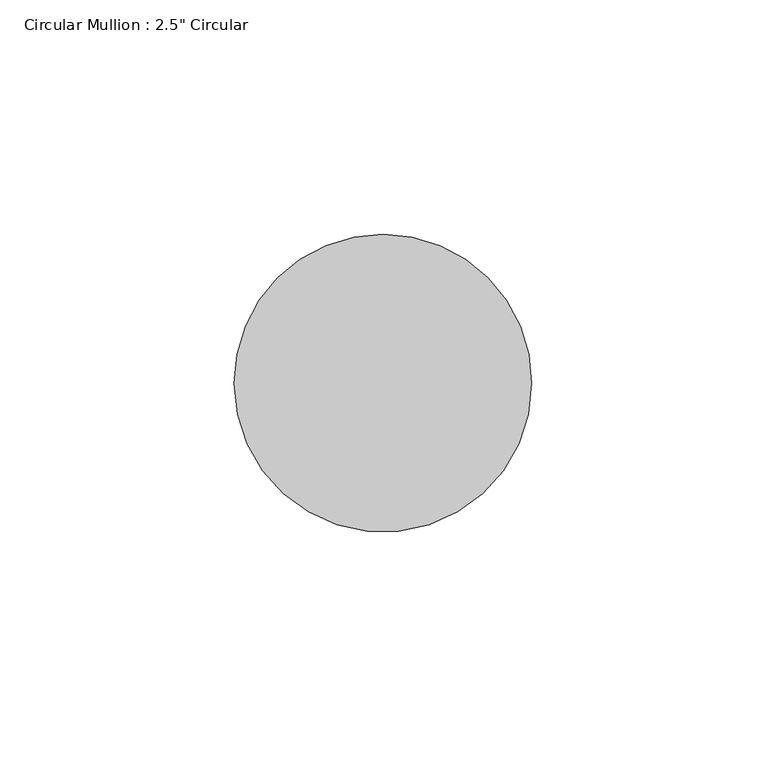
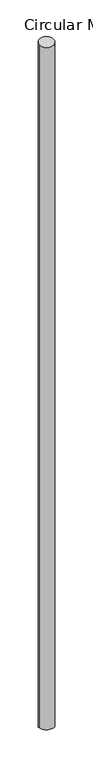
"""IFC4 building model written with IfcOpenShell, lengths in millimetres: member geometry."""

import ifcopenshell
import ifcopenshell.guid

model = None  # the IFC model being written
_history = None  # IfcOwnerHistory: only IFC2X3 demands one
_inside = {}  # id of a spatial element -> (the spatial element, [elements in it])
_under = {}  # id of a project, library or spatial element -> (it, [spatial elements below it])
_declared = {}  # id of a project -> (the project, [libraries it declares])
_typed = {}  # id of a type object -> (the type object, [elements of that type])
_made_of = {}  # id of a material, layer set ... -> (it, [elements and type objects made of it])


def new_model(schema):
    """Start an empty IFC model of exactly this schema.

    Asked for "IFC4X3", IfcOpenShell would pick the latest addendum, in which some entities
    have other attributes; the version numbers below select the first issue.
    IFC2X3 requires an IfcOwnerHistory on every rooted entity: one is made here for all.
    """
    global model, _history
    if schema == "IFC4X3":
        model = ifcopenshell.file(schema_version=(4, 3, 0, 0))
    else:
        model = ifcopenshell.file(schema=schema)
    _inside.clear()
    _under.clear()
    _declared.clear()
    _typed.clear()
    _made_of.clear()
    _history = None
    if model.schema == "IFC2X3":
        org = make("IfcOrganization", Name="unknown")
        user = make(
            "IfcPersonAndOrganization",
            ThePerson=make("IfcPerson", FamilyName="unknown"),
            TheOrganization=org,
        )
        app = make(
            "IfcApplication",
            ApplicationDeveloper=org,
            Version="unknown",
            ApplicationFullName="unknown",
            ApplicationIdentifier="unknown",
        )
        _history = make(
            "IfcOwnerHistory",
            OwningUser=user,
            OwningApplication=app,
            ChangeAction="ADDED",
            CreationDate=0,
        )
    return model


def make(cls, **values):
    """One entity of the class cls with the attributes given. An attribute that is None is left unset."""
    return model.create_entity(
        cls, **{name: value for name, value in values.items() if value is not None}
    )


def rooted(cls, **values):
    """An entity with a GlobalId (a new one), such as an element, a storey or a relation."""
    return make(cls, GlobalId=ifcopenshell.guid.new(), OwnerHistory=_history, **values)


def si_unit(unit_type, name, prefix=None):
    """IfcSIUnit, for example si_unit("LENGTHUNIT", "METRE", prefix="MILLI")."""
    return make("IfcSIUnit", UnitType=unit_type, Prefix=prefix, Name=name)


def assignment(units):
    """IfcUnitAssignment: the units of a project."""
    return None if units is None else make("IfcUnitAssignment", Units=units)


def point(xyz):
    """IfcCartesianPoint."""
    return None if xyz is None else make("IfcCartesianPoint", Coordinates=xyz)


def direction(xyz):
    """IfcDirection."""
    return None if xyz is None else make("IfcDirection", DirectionRatios=xyz)


def frame(location, z_axis=None, x_axis=None):
    """IfcAxis2Placement3D, a coordinate frame: its origin and axes. An axis left out is left unset."""
    return make(
        "IfcAxis2Placement3D",
        Location=point(location),
        Axis=direction(z_axis),
        RefDirection=direction(x_axis),
    )


def origin():
    """The frame at (0, 0, 0) with its axes left unset."""
    return frame((0.0, 0.0, 0.0))


def place(relative_to, where):
    """IfcLocalPlacement: puts the frame where relative to a parent placement (None: the world)."""
    return make(
        "IfcLocalPlacement", PlacementRelTo=relative_to, RelativePlacement=where
    )


def context(
    kind, dimensions, precision=None, world=None, true_north=None, identifier=None
):
    """IfcGeometricRepresentationContext, for example the 3D "Model" context."""
    return make(
        "IfcGeometricRepresentationContext",
        ContextIdentifier=identifier,
        ContextType=kind,
        CoordinateSpaceDimension=dimensions,
        Precision=precision,
        WorldCoordinateSystem=world,
        TrueNorth=true_north,
    )


def project(units=None, contexts=None):
    """IfcProject with its units and contexts."""
    return rooted(
        "IfcProject",
        Name="project",
        RepresentationContexts=contexts,
        UnitsInContext=assignment(units),
    )


def spatial(cls, under=None, at=None, **own):
    """A site, building, storey or space (cls), placed at a placement, below another one or the project."""
    s = rooted(cls, ObjectPlacement=at, **own)
    if under is not None:
        _under.setdefault(under.id(), (under, []))[1].append(s)
    return s


def ellipse_curve(where, semi_axis1, semi_axis2):
    """IfcEllipse in the frame where."""
    return make(
        "IfcEllipse", Position=where, SemiAxis1=semi_axis1, SemiAxis2=semi_axis2
    )


def shape(context_of_items, identifier, shape_type, items):
    """IfcShapeRepresentation: the items that make up one representation, for example the "Body"."""
    return make(
        "IfcShapeRepresentation",
        ContextOfItems=context_of_items,
        RepresentationIdentifier=identifier,
        RepresentationType=shape_type,
        Items=items,
    )


def source(mapping_origin, context_of_items, identifier, shape_type, items):
    """IfcRepresentationMap: a shape defined once, which mapped items show again and again."""
    return make(
        "IfcRepresentationMap",
        MappingOrigin=mapping_origin,
        MappedRepresentation=shape(context_of_items, identifier, shape_type, items),
    )


def transform(
    local_origin,
    x_axis=None,
    y_axis=None,
    z_axis=None,
    scale=None,
    scale2=None,
    scale3=None,
    uniform=True,
):
    """IfcCartesianTransformationOperator3D, or its non-uniform kind. x_axis, y_axis, z_axis: its Axis1, 2, 3."""
    if uniform:
        return make(
            "IfcCartesianTransformationOperator3D",
            Axis1=direction(x_axis),
            Axis2=direction(y_axis),
            LocalOrigin=point(local_origin),
            Scale=scale,
            Axis3=direction(z_axis),
        )
    return make(
        "IfcCartesianTransformationOperator3DnonUniform",
        Axis1=direction(x_axis),
        Axis2=direction(y_axis),
        LocalOrigin=point(local_origin),
        Scale=scale,
        Axis3=direction(z_axis),
        Scale2=scale2,
        Scale3=scale3,
    )


def mapped(mapping_source, mapping_target):
    """IfcMappedItem: shows the shape of a source again, moved by a transform."""
    return make(
        "IfcMappedItem", MappingSource=mapping_source, MappingTarget=mapping_target
    )


def made_of(thing, what):
    """Note that an element or type object is made of a material, layer set ...; save() writes the relation."""
    if what is not None:
        _made_of.setdefault(what.id(), (what, []))[1].append(thing)
    return thing


def element(
    cls,
    number,
    at=None,
    inside=None,
    cuts=None,
    type_object=None,
    material=None,
    context=None,
    identifier="Body",
    shape_type=None,
    held_by="IfcProductDefinitionShape",
    body=None,
    shapes=None,
    **own,
):
    """One element of the class cls, such as IfcWall. Its Tag is "e" and its number.

    at: its placement. inside: the storey or other place that contains it. cuts: it is an
    opening in that element (IfcRelVoidsElement). A single representation is given by context,
    identifier, shape_type and body (its items); several are given by shapes. held_by: the class
    of the entity that holds the representations. save() writes the other relations.
    """
    e = rooted(cls, Tag="e%d" % number, ObjectPlacement=at, **own)
    if body is not None:
        shapes = [shape(context, identifier, shape_type, body)]
    if shapes is not None:
        e.Representation = make(held_by, Representations=shapes)
    if inside is not None:
        _inside.setdefault(inside.id(), (inside, []))[1].append(e)
    if cuts is not None:
        rooted(
            "IfcRelVoidsElement", RelatingBuildingElement=cuts, RelatedOpeningElement=e
        )
    if type_object is not None:
        _typed.setdefault(type_object.id(), (type_object, []))[1].append(e)
    return made_of(e, material)


def aggregate(whole, parts):
    """IfcRelAggregates: a whole, such as a stair, and the parts it consists of."""
    return rooted("IfcRelAggregates", RelatingObject=whole, RelatedObjects=parts)


def save(model, path):
    """Write the relations noted so far, then the file.

    IfcRelAggregates (storeys below a building ...), IfcRelContainedInSpatialStructure (elements
    in a storey), IfcRelDefinesByType, IfcRelAssociatesMaterial and IfcRelDeclares: one each for
    every whole, place, type object, material and project.
    """
    for whole, parts in _under.values():
        aggregate(whole, parts)
    for where, things in _inside.values():
        rooted(
            "IfcRelContainedInSpatialStructure",
            RelatedElements=things,
            RelatingStructure=where,
        )
    for kind, things in _typed.values():
        rooted("IfcRelDefinesByType", RelatedObjects=things, RelatingType=kind)
    for what, things in _made_of.values():
        rooted("IfcRelAssociatesMaterial", RelatedObjects=things, RelatingMaterial=what)
    for by, libraries in _declared.values():
        rooted("IfcRelDeclares", RelatingContext=by, RelatedDefinitions=libraries)
    model.write(path)


def plane_surface(at):
    """IfcPlane: the flat surface through the origin of the frame at, square to its z axis."""
    return make("IfcPlane", Position=at)


def cylinder_surface(at, radius):
    """IfcCylindricalSurface: all points at the distance radius from the z axis of the frame at."""
    return make("IfcCylindricalSurface", Position=at, Radius=radius)


def advanced_brep(points, edges, surfaces, faces):
    """IfcAdvancedBrep: a solid bounded by faces that lie on surfaces and meet in shared edges.

    An edge is (start, end): straight between two places in points (the first is 0);
    or (start, end, curve); or (start, end, curve, False) where it runs against its curve.
    A face is (place in surfaces, loops), or (place, loops, False) where it looks against
    its surface's normal. A loop lists edges by number (the first is 1), with a minus sign
    where the edge is run from its end to its start. The first loop is the outer one.
    """
    corners = [point(p) for p in points]
    vertices = [make("IfcVertexPoint", VertexGeometry=c) for c in corners]
    made = []
    for start, end, *more in edges:
        made.append(
            make(
                "IfcEdgeCurve",
                EdgeStart=vertices[start],
                EdgeEnd=vertices[end],
                EdgeGeometry=more[0] if more else make("IfcPolyline", Points=[corners[start], corners[end]]),
                SameSense=more[1] if len(more) > 1 else True,
            )
        )
    hull = []
    for where, loops, *sense in faces:
        bounds = []
        for j, loop in enumerate(loops):
            ring = [make("IfcOrientedEdge", EdgeElement=made[abs(k) - 1], Orientation=k > 0) for k in loop]
            bounds.append(
                make(
                    "IfcFaceOuterBound" if j == 0 else "IfcFaceBound",
                    Bound=make("IfcEdgeLoop", EdgeList=ring),
                    Orientation=True,
                )
            )
        hull.append(make("IfcAdvancedFace", Bounds=bounds, FaceSurface=surfaces[where], SameSense=sense[0] if sense else True))
    return make("IfcAdvancedBrep", Outer=make("IfcClosedShell", CfsFaces=hull))


def member_3b75e8cd(model_context):
    return source(origin(), model_context, "Body", "AdvancedBrep", [
        advanced_brep(
        [(-63.5, 0.0, -2.5339947), (0.0, 0.0, 0.0), (0.0, 0.0, -3126.6442018), (-63.5, 0.0, -3123.6382657)],
        [
            (0, 1, ellipse_curve(frame((-31.75, 0.0, -1.2669973), z_axis=(0.0397262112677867, 0.08592858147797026, -0.9955089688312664), x_axis=(0.4177557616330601, 0.9036139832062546, 0.09466727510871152)), 31.8932335, 31.75)),
            (1, 2),
            (2, 3, ellipse_curve(frame((-31.75, 0.0, -3125.1412338), z_axis=(0.047028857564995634, 0.10387008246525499, 0.9934783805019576), x_axis=(-0.40976924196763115, -0.9050350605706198, 0.114020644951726)), 31.9584207, 31.75)),
            (3, 0),
            (1, 0, ellipse_curve(frame((-31.75, 0.0, -1.2669973), z_axis=(0.0397262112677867, 0.08592858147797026, -0.9955089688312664), x_axis=(0.4177557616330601, 0.9036139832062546, 0.09466727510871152)), 31.8932335, 31.75)),
            (3, 2, ellipse_curve(frame((-31.75, 0.0, -3125.1412338), z_axis=(0.047028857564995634, 0.10387008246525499, 0.9934783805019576), x_axis=(-0.40976924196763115, -0.9050350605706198, 0.114020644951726)), 31.9584207, 31.75)),
        ],
        [
            cylinder_surface(frame((-31.75, 0.0, 0.0), z_axis=(0.0, 0.0, 1.0), x_axis=(1.0, 0.0, 0.0)), 31.75),
            plane_surface(frame((276.6640489, -127.9063877, 0.0), z_axis=(-0.0397262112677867, -0.08592858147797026, 0.9955089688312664), x_axis=(-0.4177557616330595, -0.9036139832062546, -0.09466727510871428))),
            plane_surface(frame((277.6655153, -125.717547, -3126.6442018), z_axis=(-0.047028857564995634, -0.10387008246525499, -0.9934783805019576), x_axis=(-0.4097692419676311, -0.9050350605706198, 0.11402064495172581))),
        ],
        [
            (0, [[1, 2, 3, 4]]),
            (0, [[5, -4, 6, -2]]),
            (1, [[-1, -5]]),
            (2, [[-6, -3]]),
        ],
    ),
    ])


if __name__ == "__main__":
    model = new_model("IFC4")
    model_context = context("Model", 3, world=origin())
    ifc_project = project(units=[si_unit("LENGTHUNIT", "METRE", prefix="MILLI")], contexts=[model_context])
    site = spatial("IfcSite", under=ifc_project)
    building = spatial("IfcBuilding", under=site)
    placement = place(None, origin())
    member_shape = member_3b75e8cd(model_context)
    element("IfcMember", 1, ObjectType="Circular Mullion : 2.5\" Circular", at=placement, inside=building, context=model_context, shape_type="MappedRepresentation", body=[
        mapped(member_shape, transform((0.0, 0.0, 0.0), x_axis=(1.0, 0.0, 0.0), y_axis=(0.0, 1.0, 0.0), z_axis=(0.0, 0.0, 1.0))),
    ])
    save(model, "model.ifc")
